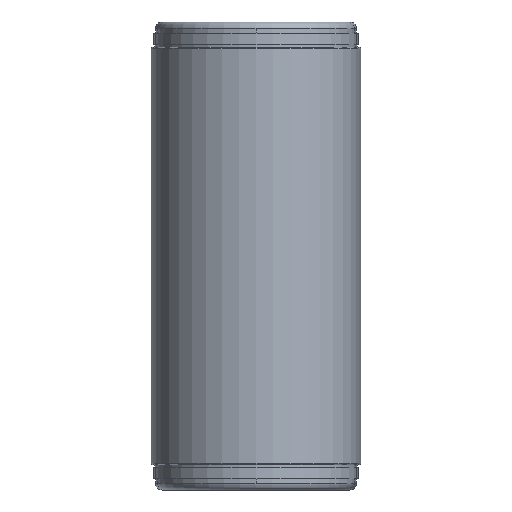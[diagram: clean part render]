
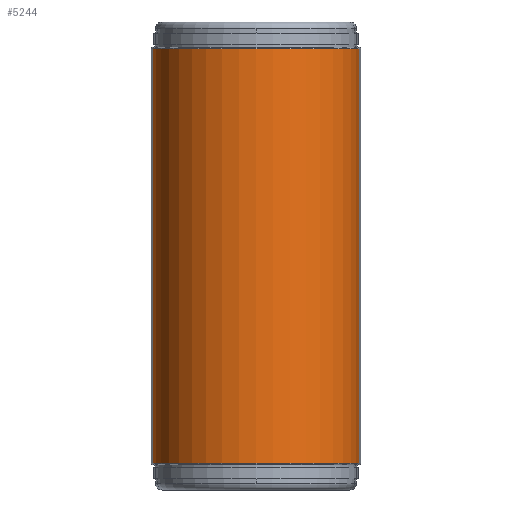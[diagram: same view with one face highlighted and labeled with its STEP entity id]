
A CAD part, left-side view. The second image highlights one B-rep face of the part: STEP entity #5244.
In plain terms, the highlighted cylindrical face has radius 75.3 mm (diameter 150.6 mm), a partial arc.
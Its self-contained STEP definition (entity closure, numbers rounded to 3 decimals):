
#43 = EDGE_LOOP ( 'NONE', ( #3637, #3353, #760, #4074 ) ) ;
#299 = CYLINDRICAL_SURFACE ( 'NONE', #5564, 75.3 ) ;
#539 = VERTEX_POINT ( 'NONE', #1808 ) ;
#760 = ORIENTED_EDGE ( 'NONE', *, *, #5734, .F. ) ;
#933 = VERTEX_POINT ( 'NONE', #5321 ) ;
#989 = CARTESIAN_POINT ( 'NONE',  ( -4.374, -75.173, -151.4 ) ) ;
#1162 = FACE_OUTER_BOUND ( 'NONE', #43, .T. ) ;
#1241 = LINE ( 'NONE', #4671, #5286 ) ;
#1249 = CARTESIAN_POINT ( 'NONE',  ( -4.374, 75.173, 151.4 ) ) ;
#1258 = CARTESIAN_POINT ( 'NONE',  ( 0., 0., 0. ) ) ;
#1808 = CARTESIAN_POINT ( 'NONE',  ( -4.374, 75.173, -151.4 ) ) ;
#2149 = DIRECTION ( 'NONE',  ( 1., 0., 0. ) ) ;
#2548 = EDGE_CURVE ( 'NONE', #933, #5070, #3229, .T. ) ;
#2665 = CARTESIAN_POINT ( 'NONE',  ( 0., 0., 151.4 ) ) ;
#2732 = DIRECTION ( 'NONE',  ( 1., 0., 0. ) ) ;
#2930 = CARTESIAN_POINT ( 'NONE',  ( -4.374, -75.173, 151.4 ) ) ;
#2940 = EDGE_CURVE ( 'NONE', #933, #539, #4216, .T. ) ;
#3229 = CIRCLE ( 'NONE', #3470, 75.3 ) ;
#3353 = ORIENTED_EDGE ( 'NONE', *, *, #5698, .T. ) ;
#3470 = AXIS2_PLACEMENT_3D ( 'NONE', #2665, #4142, #2732 ) ;
#3637 = ORIENTED_EDGE ( 'NONE', *, *, #2940, .T. ) ;
#3814 = DIRECTION ( 'NONE',  ( 0., 0., -1. ) ) ;
#3857 = CIRCLE ( 'NONE', #5854, 75.3 ) ;
#4010 = DIRECTION ( 'NONE',  ( 0., 0., 1. ) ) ;
#4074 = ORIENTED_EDGE ( 'NONE', *, *, #2548, .F. ) ;
#4142 = DIRECTION ( 'NONE',  ( 0., 0., 1. ) ) ;
#4157 = DIRECTION ( 'NONE',  ( 0., 0., -1. ) ) ;
#4216 = LINE ( 'NONE', #1249, #4786 ) ;
#4472 = VERTEX_POINT ( 'NONE', #989 ) ;
#4671 = CARTESIAN_POINT ( 'NONE',  ( -4.374, -75.173, 151.4 ) ) ;
#4786 = VECTOR ( 'NONE', #4157, 1000. ) ;
#4821 = DIRECTION ( 'NONE',  ( 0., 0., 1. ) ) ;
#4841 = DIRECTION ( 'NONE',  ( 1., 0., 0. ) ) ;
#5070 = VERTEX_POINT ( 'NONE', #2930 ) ;
#5244 = ADVANCED_FACE ( 'NONE', ( #1162 ), #299, .T. ) ;
#5259 = CARTESIAN_POINT ( 'NONE',  ( 0., 0., -151.4 ) ) ;
#5286 = VECTOR ( 'NONE', #3814, 1000. ) ;
#5321 = CARTESIAN_POINT ( 'NONE',  ( -4.374, 75.173, 151.4 ) ) ;
#5564 = AXIS2_PLACEMENT_3D ( 'NONE', #1258, #4010, #2149 ) ;
#5698 = EDGE_CURVE ( 'NONE', #539, #4472, #3857, .T. ) ;
#5734 = EDGE_CURVE ( 'NONE', #5070, #4472, #1241, .T. ) ;
#5854 = AXIS2_PLACEMENT_3D ( 'NONE', #5259, #4821, #4841 ) ;
